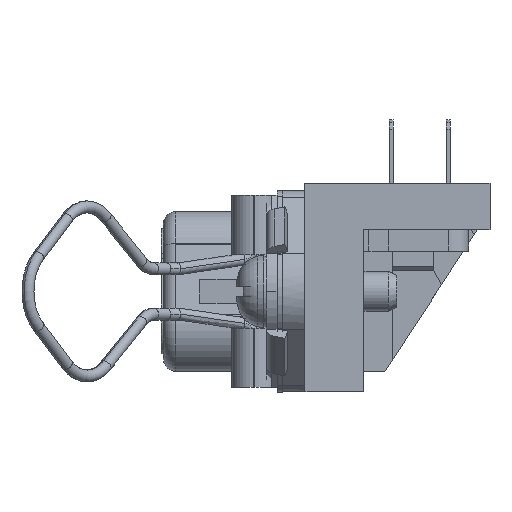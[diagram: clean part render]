
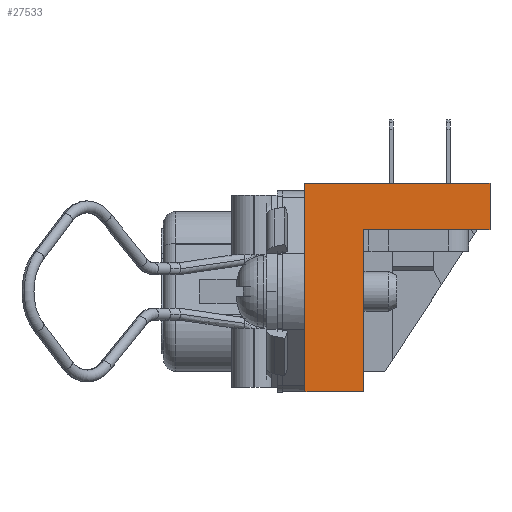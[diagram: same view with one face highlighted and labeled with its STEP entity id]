
A CAD part, left-side view. The second image highlights one B-rep face of the part: STEP entity #27533.
In plain terms, the highlighted planar face has unit normal (-1, 0, 0).
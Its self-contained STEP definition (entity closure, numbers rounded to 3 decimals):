
#1633 = VERTEX_POINT ( 'NONE', #19298 ) ;
#2085 = EDGE_CURVE ( 'NONE', #37369, #13263, #65855, .T. ) ;
#2112 = DIRECTION ( 'NONE',  ( 0., 0., -1. ) ) ;
#2464 = ORIENTED_EDGE ( 'NONE', *, *, #6776, .F. ) ;
#2786 = DIRECTION ( 'NONE',  ( 0., 0., -1. ) ) ;
#2832 = VECTOR ( 'NONE', #66689, 1000. ) ;
#6776 = EDGE_CURVE ( 'NONE', #23127, #10965, #40249, .T. ) ;
#8936 = VECTOR ( 'NONE', #2112, 1000. ) ;
#10349 = VERTEX_POINT ( 'NONE', #68546 ) ;
#10965 = VERTEX_POINT ( 'NONE', #33175 ) ;
#11827 = CARTESIAN_POINT ( 'NONE',  ( -41.425, 1.2, -7.55 ) ) ;
#13078 = VECTOR ( 'NONE', #20029, 1000. ) ;
#13211 = VECTOR ( 'NONE', #20582, 1000. ) ;
#13263 = VERTEX_POINT ( 'NONE', #11827 ) ;
#14570 = ORIENTED_EDGE ( 'NONE', *, *, #25090, .T. ) ;
#15155 = ORIENTED_EDGE ( 'NONE', *, *, #2085, .T. ) ;
#15394 = CARTESIAN_POINT ( 'NONE',  ( -41.425, 1.2, -7.55 ) ) ;
#17913 = ORIENTED_EDGE ( 'NONE', *, *, #47480, .T. ) ;
#19298 = CARTESIAN_POINT ( 'NONE',  ( -41.425, -3.2, 4.63 ) ) ;
#20029 = DIRECTION ( 'NONE',  ( 0., 1., 0. ) ) ;
#20074 = VERTEX_POINT ( 'NONE', #64788 ) ;
#20283 = CARTESIAN_POINT ( 'NONE',  ( -41.425, 1.2, 4.63 ) ) ;
#20582 = DIRECTION ( 'NONE',  ( 0., -1., 0. ) ) ;
#22394 = AXIS2_PLACEMENT_3D ( 'NONE', #32331, #43679, #38745 ) ;
#23127 = VERTEX_POINT ( 'NONE', #26582 ) ;
#24228 = CARTESIAN_POINT ( 'NONE',  ( -41.425, 1.2, -7.55 ) ) ;
#25090 = EDGE_CURVE ( 'NONE', #10349, #1633, #66887, .T. ) ;
#26582 = CARTESIAN_POINT ( 'NONE',  ( -41.425, -12.7, 8.13 ) ) ;
#27533 = ADVANCED_FACE ( 'NONE', ( #49765 ), #38253, .T. ) ;
#29560 = ORIENTED_EDGE ( 'NONE', *, *, #57615, .F. ) ;
#30110 = LINE ( 'NONE', #68732, #8936 ) ;
#30518 = VECTOR ( 'NONE', #59964, 1000. ) ;
#30986 = EDGE_CURVE ( 'NONE', #20074, #37369, #30110, .T. ) ;
#31107 = CARTESIAN_POINT ( 'NONE',  ( -41.425, -12.7, -7.55 ) ) ;
#32331 = CARTESIAN_POINT ( 'NONE',  ( -41.425, 1.2, -7.55 ) ) ;
#33175 = CARTESIAN_POINT ( 'NONE',  ( -41.425, -12.7, 4.63 ) ) ;
#36877 = VECTOR ( 'NONE', #71308, 1000. ) ;
#37369 = VERTEX_POINT ( 'NONE', #47631 ) ;
#38253 = PLANE ( 'NONE',  #22394 ) ;
#38745 = DIRECTION ( 'NONE',  ( 0., 1., 0. ) ) ;
#40249 = LINE ( 'NONE', #31107, #30518 ) ;
#42310 = ORIENTED_EDGE ( 'NONE', *, *, #30986, .T. ) ;
#43679 = DIRECTION ( 'NONE',  ( -1., 0., 0. ) ) ;
#47444 = LINE ( 'NONE', #20283, #13078 ) ;
#47480 = EDGE_CURVE ( 'NONE', #13263, #10349, #59284, .T. ) ;
#47631 = CARTESIAN_POINT ( 'NONE',  ( -41.425, 1.2, 0. ) ) ;
#48463 = ORIENTED_EDGE ( 'NONE', *, *, #50232, .F. ) ;
#49765 = FACE_OUTER_BOUND ( 'NONE', #55252, .T. ) ;
#50232 = EDGE_CURVE ( 'NONE', #20074, #23127, #58233, .T. ) ;
#50841 = VECTOR ( 'NONE', #2786, 1000. ) ;
#55252 = EDGE_LOOP ( 'NONE', ( #29560, #2464, #48463, #42310, #15155, #17913, #14570 ) ) ;
#57615 = EDGE_CURVE ( 'NONE', #10965, #1633, #47444, .T. ) ;
#58233 = LINE ( 'NONE', #65040, #13211 ) ;
#59284 = LINE ( 'NONE', #15394, #2832 ) ;
#59964 = DIRECTION ( 'NONE',  ( 0., 0., -1. ) ) ;
#64788 = CARTESIAN_POINT ( 'NONE',  ( -41.425, 1.2, 8.13 ) ) ;
#65040 = CARTESIAN_POINT ( 'NONE',  ( -41.425, 1.2, 8.13 ) ) ;
#65354 = CARTESIAN_POINT ( 'NONE',  ( -41.425, -3.2, -7.55 ) ) ;
#65855 = LINE ( 'NONE', #24228, #50841 ) ;
#66689 = DIRECTION ( 'NONE',  ( 0., -1., 0. ) ) ;
#66887 = LINE ( 'NONE', #65354, #36877 ) ;
#68546 = CARTESIAN_POINT ( 'NONE',  ( -41.425, -3.2, -7.55 ) ) ;
#68732 = CARTESIAN_POINT ( 'NONE',  ( -41.425, 1.2, -7.55 ) ) ;
#71308 = DIRECTION ( 'NONE',  ( 0., 0., 1. ) ) ;
